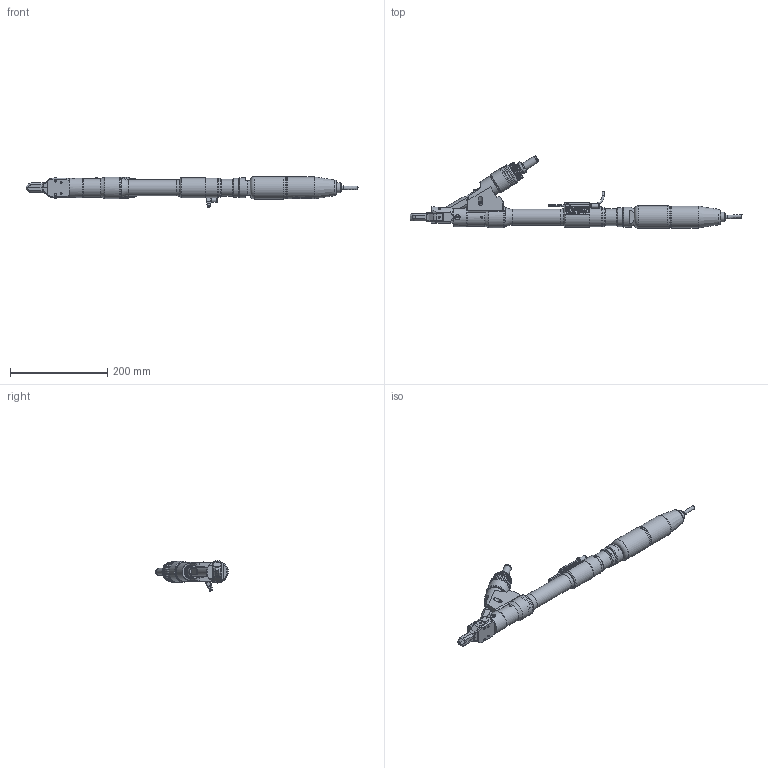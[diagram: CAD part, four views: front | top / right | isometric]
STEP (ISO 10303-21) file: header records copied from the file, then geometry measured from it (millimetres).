
FILE_DESCRIPTION(/* description */ ('© Copyright 2019 – Urheberrechtshinweis Diese CAD-Daten sind urheberrechtlich geschützt. Das Urheberrecht liegt, soweit nicht ausdrücklich anders gekennzeichnet, bei Stöger Automation GmbH. Bitte fragen Sie uns, falls Sie die CAD-Daten vervielfältigen oder','CAx-IF Rec.Pracs.---Representation and Presentation of Product Manufacturing Information (PMI)---4.0---2014-10-13'),/* implementation_level */ '2;1');
FILE_NAME(/* name */ 'H:\00_0 Arbeiten für Marketing\580006\3D_Step_automatic_screwdriver_for_screws_HSE30-ZKS.stp',/* time_stamp */ '2020-04-28T10:52:47+02:00',/* author */ ('Stöger Automation GmbH'),/* organization */ ('Stöger Automation GmbH'),/* preprocessor_version */ 'ST-DEVELOPER v17',/* originating_system */ 'Autodesk Inventor 2018',/* authorisation */ '');
FILE_SCHEMA (('AP242_MANAGED_MODEL_BASED_3D_ENGINEERING_MIM_LF { 1 0 10303 442 1 1 4 }'));
Length unit declared in the file: millimetre
Products named in the file (1): 580006
Bounding box: 682.82 x 149.23 x 63.05 mm (x, y, z)
Volume: 425896.1 mm3; surface area: 270997.5 mm2
Topology: 12 solids, 27 shells, 2465 faces, 6940 edges, 4643 vertices
Faces by surface type: plane 1231, cylinder 652, bspline 330, cone 185, torus 59, sphere 8
Full cylindrical faces by diameter (mm): 1.5 x2, 2 x2, 2.1 x2, 2.459 x2, 3 x8, 3.1 x6, 3.242 x4, 3.3 x2, 3.5 x2, 3.8 x1, 4 x5, 4.1 x2, 4.134 x8, 4.4 x4, 4.459 x1, 4.5 x6, 4.917 x4, 5 x8, 5.1 x1, 5.2 x2, 5.3 x4, 5.5 x3, 6 x4, 6.02 x2, 6.1 x1, 6.5 x1, 7.8 x3, 8 x5, 8.5 x3, 8.8 x1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
Entity records: 165281 total; most frequent: CARTESIAN_POINT 101934, ORIENTED_EDGE 13838, DIRECTION 11579, EDGE_CURVE 6919, VERTEX_POINT 4647, AXIS2_PLACEMENT_3D 4215, LINE 3149, VECTOR 3149
